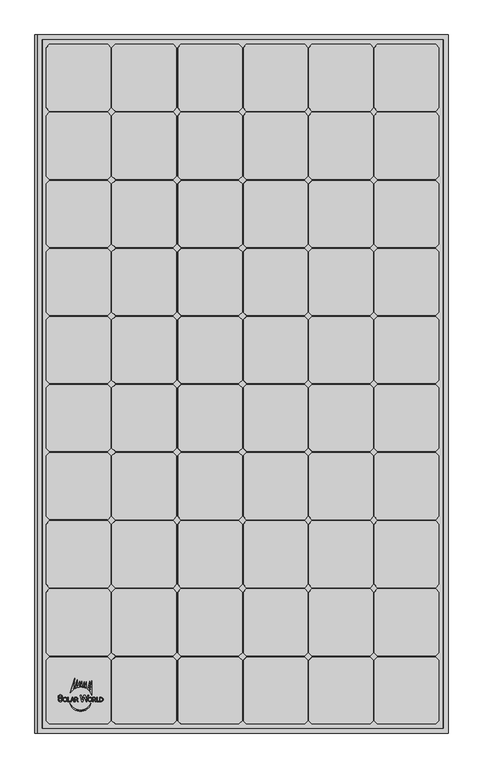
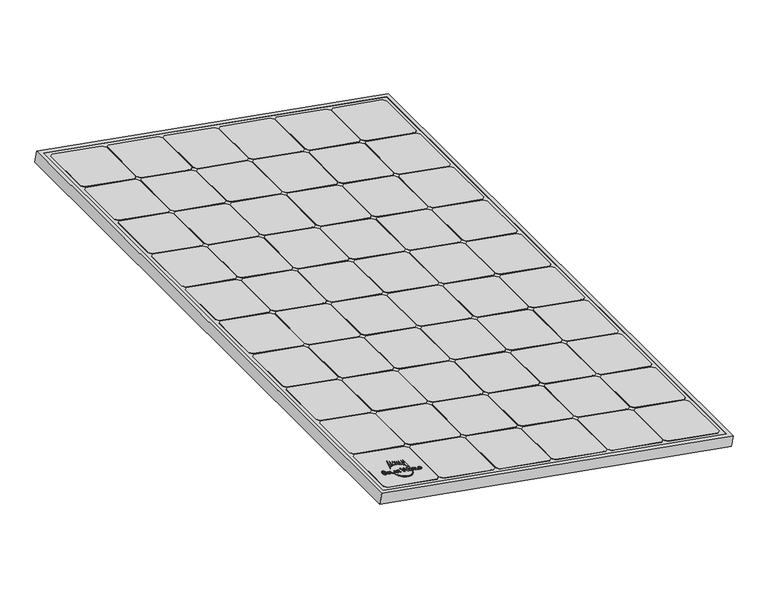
"""IFC4 building model written with IfcOpenShell, lengths in millimetres: proxy geometry, Kit Sunfix aero duo : Sunmodule Plus mono."""

from ifc_helpers import new_model, si_unit, point, frame, frame_2d, origin, place, context, project, spatial, polyline, circle_curve, trimmed, segment, composite_curve, outline, extrude, source, transform, mapped, element, save


def generic_models_4214bab4(model_context):
    return source(origin(), model_context, "Body", "SweptSolid", [
        extrude(outline(composite_curve([segment(trimmed(circle_curve(frame_2d((0.1998849, -3.2006257)), 5.0), [point((0.1998849, -8.2006257))], [point((0.1998849, 1.7993742))], False, "CARTESIAN"), True, "CONTINUOUS"), segment(trimmed(circle_curve(frame_2d((0.1998849, -3.2006257)), 5.0), [point((0.1998849, 1.7993742))], [point((0.1998849, -8.2006257))], False, "CARTESIAN"), True, "CONTINUOUS")], self_intersect=False), holes=[composite_curve([segment(trimmed(circle_curve(frame_2d((0.0, -3.4929825)), 3.4929825), [point((0.0, -6.9859651))], [point((0.0, 0.0))], True, "CARTESIAN"), True, "CONTINUOUS"), segment(trimmed(circle_curve(frame_2d((0.0, -3.4929825)), 3.4929825), [point((0.0, 0.0))], [point((0.0, -6.9859651))], True, "CARTESIAN"), True, "CONTINUOUS")], self_intersect=False)]), frame((95.8312008, -757.0649809, 285.0651223), z_axis=(0.17364817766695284, 0.0, 0.9848077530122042), x_axis=(0.0, 1.0, 0.0)), (0.0, 0.0, 1.0), 0.9849601),
        extrude(outline(polyline([(5.1998849, -9.0702125), (5.1998849, -10.4420414), (-3.5312002, -10.4420414), (-3.5312002, -15.8326664), (-4.8001151, -15.8326664), (-4.8001151, -9.0702125), (5.1998849, -9.0702125)])), frame((95.8312008, -757.0649809, 285.0651223), z_axis=(0.17364817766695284, 0.0, 0.9848077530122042), x_axis=(0.0, 1.0, 0.0)), (0.0, 0.0, 1.0), 0.9849601),
        extrude(outline(polyline([(-1.7085687, -18.902279), (-4.8001151, -17.7155455), (-4.8001151, -16.3665353), (5.1998849, -20.2051757), (5.1998849, -21.43828), (-4.8001151, -25.4785423), (-4.8001151, -23.9230031), (-1.7085687, -22.7977722), (-1.7085687, -18.902279)]), holes=[polyline([(-0.4734297, -22.3482184), (3.500464, -20.9018393), (-0.4734297, -19.3764044), (-0.4734297, -22.3482184)])]), frame((95.8312008, -757.0649809, 285.0651223), z_axis=(0.17364817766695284, 0.0, 0.9848077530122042), x_axis=(0.0, 1.0, 0.0)), (0.0, 0.0, 1.0), 0.9849601),
        extrude(outline(composite_curve([segment(polyline([(5.0411189, -26.5569741), (5.0411189, -30.7422059)]), True, "CONTINUOUS"), segment(trimmed(circle_curve(frame_2d((2.1117507, -30.7422059)), 2.9293683), [point((5.0411189, -30.7422059))], [point((-0.4734297, -32.1198999))], False, "CARTESIAN"), True, "CONTINUOUS"), segment(polyline([(-0.4734297, -32.1198999), (-4.8001151, -34.823513), (-4.8001151, -33.4458189), (-0.4734297, -30.7422059), (-0.4734297, -27.7362383), (-4.8001151, -27.7362383), (-4.8001151, -26.5569741), (5.0411189, -26.5569741)]), True, "CONTINUOUS")], self_intersect=False), holes=[composite_curve([segment(polyline([(3.7924862, -30.7915983), (3.7924862, -27.7362383), (0.6940273, -27.7362383), (0.6940273, -30.7915983)]), True, "CONTINUOUS"), segment(trimmed(circle_curve(frame_2d((2.2432568, -30.7915983)), 1.5492295), [point((0.6940273, -30.7915983))], [point((3.7924862, -30.7915983))], True, "CARTESIAN"), True, "CONTINUOUS")], self_intersect=False)]), frame((95.8312008, -757.0649809, 285.0651223), z_axis=(0.17364817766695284, 0.0, 0.9848077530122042), x_axis=(0.0, 1.0, 0.0)), (0.0, 0.0, 1.0), 0.9849601),
        extrude(outline(composite_curve([segment(trimmed(circle_curve(frame_2d((-1.9053474, -40.4638564)), 26.5), [point((-8.7208449, -66.0724291))], [point((-8.7208449, -14.8552837))], False, "CARTESIAN"), True, "CONTINUOUS"), segment(trimmed(circle_curve(frame_2d((2.6017434, -40.4638564)), 28.0), [point((-8.7208449, -14.8552837))], [point((-8.7208449, -66.0724291))], True, "CARTESIAN"), True, "CONTINUOUS")], self_intersect=False)), frame((95.8312008, -757.0649809, 285.0651223), z_axis=(0.17364817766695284, 0.0, 0.9848077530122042), x_axis=(0.0, 1.0, 0.0)), (0.0, 0.0, 1.0), 0.9849601),
        extrude(outline(polyline([(-4.8001151, -44.2256023), (9.9398205, -40.2760485), (9.9398205, -42.074514), (-2.5405515, -45.1862203), (9.9398205, -48.89666), (9.9398205, -51.6212433), (-2.7353917, -55.3507953), (9.9398205, -58.3691277), (9.9398205, -60.3004054), (-4.8001151, -56.3508517), (-4.8001151, -54.2558572), (8.1954331, -50.2827194), (-4.8001151, -46.4191167), (-4.8001151, -44.2256023)])), frame((95.8312008, -757.0649809, 285.0651223), z_axis=(0.17364817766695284, 0.0, 0.9848077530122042), x_axis=(0.0, 1.0, 0.0)), (0.0, 0.0, 1.0), 0.9849601),
        extrude(outline(composite_curve([segment(trimmed(circle_curve(frame_2d((0.1998849, -64.1588178)), 5.0), [point((0.1998849, -69.1588177))], [point((0.1998849, -59.1588178))], False, "CARTESIAN"), True, "CONTINUOUS"), segment(trimmed(circle_curve(frame_2d((0.1998849, -64.1588178)), 5.0), [point((0.1998849, -59.1588178))], [point((0.1998849, -69.1588177))], False, "CARTESIAN"), True, "CONTINUOUS")], self_intersect=False), holes=[composite_curve([segment(trimmed(circle_curve(frame_2d((0.1998849, -64.1588178)), 3.4929825), [point((0.1998849, -67.6518003))], [point((0.1998849, -60.6658352))], True, "CARTESIAN"), True, "CONTINUOUS"), segment(trimmed(circle_curve(frame_2d((0.1998849, -64.1588178)), 3.4929825), [point((0.1998849, -60.6658352))], [point((0.1998849, -67.6518003))], True, "CARTESIAN"), True, "CONTINUOUS")], self_intersect=False)]), frame((95.8312008, -757.0649809, 285.0651223), z_axis=(0.17364817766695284, 0.0, 0.9848077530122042), x_axis=(0.0, 1.0, 0.0)), (0.0, 0.0, 1.0), 0.9849601),
        extrude(outline(composite_curve([segment(polyline([(5.0411189, -69.9653713), (5.0411189, -74.1506031)]), True, "CONTINUOUS"), segment(trimmed(circle_curve(frame_2d((2.1117507, -74.1506031)), 2.9293683), [point((5.0411189, -74.1506031))], [point((-0.4734297, -75.528297))], False, "CARTESIAN"), True, "CONTINUOUS"), segment(polyline([(-0.4734297, -75.528297), (-4.8001151, -78.2319102), (-4.8001151, -76.8542161), (-0.4734297, -74.1506031), (-0.4734297, -71.1446355), (-4.8001151, -71.1446355), (-4.8001151, -69.9653713), (5.0411189, -69.9653713)]), True, "CONTINUOUS")], self_intersect=False), holes=[composite_curve([segment(polyline([(3.7924862, -74.1999955), (3.7924862, -71.1446355), (0.6940273, -71.1446355), (0.6940273, -74.1999955)]), True, "CONTINUOUS"), segment(trimmed(circle_curve(frame_2d((2.2432568, -74.1999955)), 1.5492295), [point((0.6940273, -74.1999955))], [point((3.7924862, -74.1999955))], True, "CARTESIAN"), True, "CONTINUOUS")], self_intersect=False)]), frame((95.8312008, -757.0649809, 285.0651223), z_axis=(0.17364817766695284, 0.0, 0.9848077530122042), x_axis=(0.0, 1.0, 0.0)), (0.0, 0.0, 1.0), 0.9849601),
        extrude(outline(polyline([(-4.8001151, -79.9265661), (5.1998849, -79.9265661), (5.1998849, -81.1546296), (-3.5152088, -81.1546296), (-3.5152088, -86.1546295), (-4.8001151, -86.1546295), (-4.8001151, -79.9265661)])), frame((95.8312008, -757.0649809, 285.0651223), z_axis=(0.17364817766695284, 0.0, 0.9848077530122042), x_axis=(0.0, 1.0, 0.0)), (0.0, 0.0, 1.0), 0.9849601),
        extrude(outline(composite_curve([segment(polyline([(-4.8001151, -87.4892145), (5.1998849, -87.4892145), (5.1998849, -91.6547375)]), True, "CONTINUOUS"), segment(trimmed(circle_curve(frame_2d((0.1998849, -90.5586457)), 5.118732), [point((5.1998849, -91.6547375))], [point((-4.8001151, -91.6547375))], False, "CARTESIAN"), True, "CONTINUOUS"), segment(polyline([(-4.8001151, -91.6547375), (-4.8001151, -87.4892145)]), True, "CONTINUOUS")], self_intersect=False), holes=[composite_curve([segment(polyline([(3.6386387, -89.0149737), (-3.3613613, -89.0149737), (-3.3613613, -90.7441157)]), True, "CONTINUOUS"), segment(trimmed(circle_curve(frame_2d((0.1386387, -90.7441157)), 3.5), [point((-3.3613613, -90.7441157))], [point((3.6386387, -90.7441157))], True, "CARTESIAN"), True, "CONTINUOUS"), segment(polyline([(3.6386387, -90.7441157), (3.6386387, -89.0149737)]), True, "CONTINUOUS")], self_intersect=False)]), frame((95.8312008, -757.0649809, 285.0651223), z_axis=(0.17364817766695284, 0.0, 0.9848077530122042), x_axis=(0.0, 1.0, 0.0)), (0.0, 0.0, 1.0), 0.9849601),
        extrude(outline(composite_curve([segment(trimmed(circle_curve(frame_2d((5.8567778, 8.5215552)), 5.3511248), [point((2.5428431, 12.723028))], [point((5.8567778, 3.1704305))], False, "CARTESIAN"), True, "CONTINUOUS"), segment(polyline([(5.8567778, 3.1704305), (5.8567778, 4.9541387)]), True, "CONTINUOUS"), segment(trimmed(circle_curve(frame_2d((5.8567778, 8.4292944)), 3.4751557), [point((5.8567778, 4.9541387))], [point((4.0740931, 11.4123706))], True, "CARTESIAN"), True, "CONTINUOUS"), segment(polyline([(4.0740931, 11.4123706), (4.0740931, 4.6349933)]), True, "CONTINUOUS"), segment(trimmed(circle_curve(frame_2d((0.1981171, 8.4406898)), 5.4319901), [point((4.0740931, 4.6349933))], [point((0.1981171, 13.87268))], False, "CARTESIAN"), True, "CONTINUOUS"), segment(polyline([(0.1981171, 13.87268), (0.1981171, 11.9609933)]), True, "CONTINUOUS"), segment(trimmed(circle_curve(frame_2d((0.1981171, 8.5473447)), 3.4136486), [point((0.1981171, 11.9609933))], [point((2.5428431, 6.0663658))], True, "CARTESIAN"), True, "CONTINUOUS"), segment(polyline([(2.5428431, 6.0663658), (2.5428431, 12.723028)]), True, "CONTINUOUS")], self_intersect=False)), frame((95.8312008, -757.0649809, 285.0651223), z_axis=(0.17364817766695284, 0.0, 0.9848077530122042), x_axis=(0.0, 1.0, 0.0)), (0.0, 0.0, 1.0), 0.9849601),
        extrude(outline(composite_curve([segment(trimmed(circle_curve(frame_2d((1.0440339, -40.9467485)), 29.2067961), [point((23.9790883, -22.8630483))], [point((15.9921531, -15.8551031))], True, "CARTESIAN"), True, "CONTINUOUS"), segment(polyline([(15.9921531, -15.8551031), (50.5289432, -26.1229606), (23.9790883, -22.8630483)]), True, "CONTINUOUS")], self_intersect=False)), frame((95.8312008, -757.0649809, 285.0651223), z_axis=(0.17364817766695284, 0.0, 0.9848077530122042), x_axis=(0.0, 1.0, 0.0)), (0.0, 0.0, 1.0), 0.9849601),
        extrude(outline(composite_curve([segment(polyline([(45.6184953, -68.4638003), (10.8342738, -68.4638003)]), True, "CONTINUOUS"), segment(trimmed(circle_curve(frame_2d((1.0440339, -40.9467485)), 29.2067961), [point((10.8342738, -68.4638003))], [point((20.1505739, -63.0369514))], True, "CARTESIAN"), True, "CONTINUOUS"), segment(polyline([(20.1505739, -63.0369514), (45.6184953, -68.4638003)]), True, "CONTINUOUS")], self_intersect=False)), frame((95.8312008, -757.0649809, 285.0651223), z_axis=(0.17364817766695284, 0.0, 0.9848077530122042), x_axis=(0.0, 1.0, 0.0)), (0.0, 0.0, 1.0), 0.9849601),
        extrude(outline(composite_curve([segment(polyline([(44.1747175, -63.1268574), (21.4882128, -61.8051398)]), True, "CONTINUOUS"), segment(trimmed(circle_curve(frame_2d((1.0440339, -40.9467485)), 29.2067961), [point((21.4882128, -61.8051398))], [point((24.7730634, -57.9752567))], True, "CARTESIAN"), True, "CONTINUOUS"), segment(polyline([(24.7730634, -57.9752567), (44.1747175, -63.1268574)]), True, "CONTINUOUS")], self_intersect=False)), frame((95.8312008, -757.0649809, 285.0651223), z_axis=(0.17364817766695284, 0.0, 0.9848077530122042), x_axis=(0.0, 1.0, 0.0)), (0.0, 0.0, 1.0), 0.9849601),
        extrude(outline(composite_curve([segment(trimmed(circle_curve(frame_2d((1.0440339, -40.9467485)), 29.2067961), [point((30.016107, -44.6421396))], [point((30.2372718, -40.0569206))], True, "CARTESIAN"), True, "CONTINUOUS"), segment(polyline([(30.2372718, -40.0569206), (43.7376583, -43.2717506), (30.016107, -44.6421396)]), True, "CONTINUOUS")], self_intersect=False)), frame((95.8312008, -757.0649809, 285.0651223), z_axis=(0.17364817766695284, 0.0, 0.9848077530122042), x_axis=(0.0, 1.0, 0.0)), (0.0, 0.0, 1.0), 0.9849601),
        extrude(outline(composite_curve([segment(polyline([(43.0867937, -49.2829526), (28.940714, -49.5961517)]), True, "CONTINUOUS"), segment(trimmed(circle_curve(frame_2d((1.0440339, -40.9467485)), 29.2067961), [point((28.940714, -49.5961517))], [point((29.7301925, -46.4368523))], True, "CARTESIAN"), True, "CONTINUOUS"), segment(polyline([(29.7301925, -46.4368523), (43.0867937, -49.2829526)]), True, "CONTINUOUS")], self_intersect=False)), frame((95.8312008, -757.0649809, 285.0651223), z_axis=(0.17364817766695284, 0.0, 0.9848077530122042), x_axis=(0.0, 1.0, 0.0)), (0.0, 0.0, 1.0), 0.9849601),
        extrude(outline(composite_curve([segment(polyline([(43.0770314, -54.8085395), (26.7517698, -54.8085395)]), True, "CONTINUOUS"), segment(trimmed(circle_curve(frame_2d((1.0440339, -40.9467485)), 29.2067961), [point((26.7517698, -54.8085395))], [point((28.353325, -51.3024019))], True, "CARTESIAN"), True, "CONTINUOUS"), segment(polyline([(28.353325, -51.3024019), (43.0770314, -54.8085395)]), True, "CONTINUOUS")], self_intersect=False)), frame((95.8312008, -757.0649809, 285.0651223), z_axis=(0.17364817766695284, 0.0, 0.9848077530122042), x_axis=(0.0, 1.0, 0.0)), (0.0, 0.0, 1.0), 0.9849601),
        extrude(outline(composite_curve([segment(trimmed(circle_curve(frame_2d((1.0440339, -40.9467485)), 29.2067961), [point((28.5480992, -31.1200845))], [point((26.1399185, -26.0057476))], True, "CARTESIAN"), True, "CONTINUOUS"), segment(polyline([(26.1399185, -26.0057476), (47.3787629, -32.2171607), (28.5480992, -31.1200845)]), True, "CONTINUOUS")], self_intersect=False)), frame((95.8312008, -757.0649809, 285.0651223), z_axis=(0.17364817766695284, 0.0, 0.9848077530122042), x_axis=(0.0, 1.0, 0.0)), (0.0, 0.0, 1.0), 0.9849601),
        extrude(outline(composite_curve([segment(trimmed(circle_curve(frame_2d((1.0440339, -40.9467485)), 29.2067961), [point((30.1062523, -38.0442674))], [point((29.165809, -33.0598796))], True, "CARTESIAN"), True, "CONTINUOUS"), segment(polyline([(29.165809, -33.0598796), (44.3056664, -38.8715264), (30.1062523, -38.0442674)]), True, "CONTINUOUS")], self_intersect=False)), frame((95.8312008, -757.0649809, 285.0651223), z_axis=(0.17364817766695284, 0.0, 0.9848077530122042), x_axis=(0.0, 1.0, 0.0)), (0.0, 0.0, 1.0), 0.9849601),
        extrude(outline(polyline([(-1477.2, -172.0), (-1477.2, -30.0), (-1469.7, -22.5), (-1324.7, -22.5), (-1317.2, -30.0), (-1317.2, -172.0), (-1324.7, -179.5), (-1469.7, -179.5), (-1477.2, -172.0)])), frame((1017.6207833, -662.5, 121.5133218), z_axis=(0.17364817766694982, 0.0, 0.9848077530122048), x_axis=(0.0, -1.0, 0.0)), (0.0, 0.0, 1.0), 1.0),
        extrude(outline(polyline([(-1477.2, -331.8), (-1477.2, -189.8), (-1469.7, -182.3), (-1324.7, -182.3), (-1317.2, -189.8), (-1317.2, -331.8), (-1324.7, -339.3), (-1469.7, -339.3), (-1477.2, -331.8)])), frame((1017.6207833, -662.5, 121.5133218), z_axis=(0.17364817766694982, 0.0, 0.9848077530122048), x_axis=(0.0, -1.0, 0.0)), (0.0, 0.0, 1.0), 1.0),
        extrude(outline(polyline([(-1477.2, -491.6), (-1477.2, -349.6), (-1469.7, -342.1), (-1324.7, -342.1), (-1317.2, -349.6), (-1317.2, -491.6), (-1324.7, -499.1), (-1469.7, -499.1), (-1477.2, -491.6)])), frame((1017.6207833, -662.5, 121.5133218), z_axis=(0.17364817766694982, 0.0, 0.9848077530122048), x_axis=(0.0, -1.0, 0.0)), (0.0, 0.0, 1.0), 1.0),
        extrude(outline(polyline([(-1477.2, -651.4), (-1477.2, -509.4), (-1469.7, -501.9), (-1324.7, -501.9), (-1317.2, -509.4), (-1317.2, -651.4), (-1324.7, -658.9), (-1469.7, -658.9), (-1477.2, -651.4)])), frame((1017.6207833, -662.5, 121.5133218), z_axis=(0.17364817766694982, 0.0, 0.9848077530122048), x_axis=(0.0, -1.0, 0.0)), (0.0, 0.0, 1.0), 1.0),
        extrude(outline(polyline([(-1477.2, -811.2), (-1477.2, -669.2), (-1469.7, -661.7), (-1324.7, -661.7), (-1317.2, -669.2), (-1317.2, -811.2), (-1324.7, -818.7), (-1469.7, -818.7), (-1477.2, -811.2)])), frame((1017.6207833, -662.5, 121.5133218), z_axis=(0.17364817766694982, 0.0, 0.9848077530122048), x_axis=(0.0, -1.0, 0.0)), (0.0, 0.0, 1.0), 1.0),
        extrude(outline(polyline([(-1477.2, -971.0), (-1477.2, -829.0), (-1469.7, -821.5), (-1324.7, -821.5), (-1317.2, -829.0), (-1317.2, -971.0), (-1324.7, -978.5), (-1469.7, -978.5), (-1477.2, -971.0)])), frame((1017.6207833, -662.5, 121.5133218), z_axis=(0.17364817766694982, 0.0, 0.9848077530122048), x_axis=(0.0, -1.0, 0.0)), (0.0, 0.0, 1.0), 1.0),
        extrude(outline(polyline([(-1313.9, -172.0), (-1313.9, -30.0), (-1306.4, -22.5), (-1161.4, -22.5), (-1153.9, -30.0), (-1153.9, -172.0), (-1161.4, -179.5), (-1306.4, -179.5), (-1313.9, -172.0)])), frame((1017.6207833, -662.5, 121.5133218), z_axis=(0.17364817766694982, 0.0, 0.9848077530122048), x_axis=(0.0, -1.0, 0.0)), (0.0, 0.0, 1.0), 1.0),
        extrude(outline(polyline([(-1313.9, -331.8), (-1313.9, -189.8), (-1306.4, -182.3), (-1161.4, -182.3), (-1153.9, -189.8), (-1153.9, -331.8), (-1161.4, -339.3), (-1306.4, -339.3), (-1313.9, -331.8)])), frame((1017.6207833, -662.5, 121.5133218), z_axis=(0.17364817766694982, 0.0, 0.9848077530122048), x_axis=(0.0, -1.0, 0.0)), (0.0, 0.0, 1.0), 1.0),
        extrude(outline(polyline([(-1313.9, -491.6), (-1313.9, -349.6), (-1306.4, -342.1), (-1161.4, -342.1), (-1153.9, -349.6), (-1153.9, -491.6), (-1161.4, -499.1), (-1306.4, -499.1), (-1313.9, -491.6)])), frame((1017.6207833, -662.5, 121.5133218), z_axis=(0.17364817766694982, 0.0, 0.9848077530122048), x_axis=(0.0, -1.0, 0.0)), (0.0, 0.0, 1.0), 1.0),
        extrude(outline(polyline([(-1313.9, -651.4), (-1313.9, -509.4), (-1306.4, -501.9), (-1161.4, -501.9), (-1153.9, -509.4), (-1153.9, -651.4), (-1161.4, -658.9), (-1306.4, -658.9), (-1313.9, -651.4)])), frame((1017.6207833, -662.5, 121.5133218), z_axis=(0.17364817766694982, 0.0, 0.9848077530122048), x_axis=(0.0, -1.0, 0.0)), (0.0, 0.0, 1.0), 1.0),
        extrude(outline(polyline([(-1313.9, -811.2), (-1313.9, -669.2), (-1306.4, -661.7), (-1161.4, -661.7), (-1153.9, -669.2), (-1153.9, -811.2), (-1161.4, -818.7), (-1306.4, -818.7), (-1313.9, -811.2)])), frame((1017.6207833, -662.5, 121.5133218), z_axis=(0.17364817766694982, 0.0, 0.9848077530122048), x_axis=(0.0, -1.0, 0.0)), (0.0, 0.0, 1.0), 1.0),
        extrude(outline(polyline([(-1313.9, -971.0), (-1313.9, -829.0), (-1306.4, -821.5), (-1161.4, -821.5), (-1153.9, -829.0), (-1153.9, -971.0), (-1161.4, -978.5), (-1306.4, -978.5), (-1313.9, -971.0)])), frame((1017.6207833, -662.5, 121.5133218), z_axis=(0.17364817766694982, 0.0, 0.9848077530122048), x_axis=(0.0, -1.0, 0.0)), (0.0, 0.0, 1.0), 1.0),
        extrude(outline(polyline([(-1150.6, -172.0), (-1150.6, -30.0), (-1143.1, -22.5), (-998.1, -22.5), (-990.6, -30.0), (-990.6, -172.0), (-998.1, -179.5), (-1143.1, -179.5), (-1150.6, -172.0)])), frame((1017.6207833, -662.5, 121.5133218), z_axis=(0.17364817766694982, 0.0, 0.9848077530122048), x_axis=(0.0, -1.0, 0.0)), (0.0, 0.0, 1.0), 1.0),
        extrude(outline(polyline([(-1150.6, -331.8), (-1150.6, -189.8), (-1143.1, -182.3), (-998.1, -182.3), (-990.6, -189.8), (-990.6, -331.8), (-998.1, -339.3), (-1143.1, -339.3), (-1150.6, -331.8)])), frame((1017.6207833, -662.5, 121.5133218), z_axis=(0.17364817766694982, 0.0, 0.9848077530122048), x_axis=(0.0, -1.0, 0.0)), (0.0, 0.0, 1.0), 1.0),
        extrude(outline(polyline([(-1150.6, -491.6), (-1150.6, -349.6), (-1143.1, -342.1), (-998.1, -342.1), (-990.6, -349.6), (-990.6, -491.6), (-998.1, -499.1), (-1143.1, -499.1), (-1150.6, -491.6)])), frame((1017.6207833, -662.5, 121.5133218), z_axis=(0.17364817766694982, 0.0, 0.9848077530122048), x_axis=(0.0, -1.0, 0.0)), (0.0, 0.0, 1.0), 1.0),
        extrude(outline(polyline([(-1150.6, -651.4), (-1150.6, -509.4), (-1143.1, -501.9), (-998.1, -501.9), (-990.6, -509.4), (-990.6, -651.4), (-998.1, -658.9), (-1143.1, -658.9), (-1150.6, -651.4)])), frame((1017.6207833, -662.5, 121.5133218), z_axis=(0.17364817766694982, 0.0, 0.9848077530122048), x_axis=(0.0, -1.0, 0.0)), (0.0, 0.0, 1.0), 1.0),
        extrude(outline(polyline([(-1150.6, -811.2), (-1150.6, -669.2), (-1143.1, -661.7), (-998.1, -661.7), (-990.6, -669.2), (-990.6, -811.2), (-998.1, -818.7), (-1143.1, -818.7), (-1150.6, -811.2)])), frame((1017.6207833, -662.5, 121.5133218), z_axis=(0.17364817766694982, 0.0, 0.9848077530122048), x_axis=(0.0, -1.0, 0.0)), (0.0, 0.0, 1.0), 1.0),
        extrude(outline(polyline([(-1150.6, -971.0), (-1150.6, -829.0), (-1143.1, -821.5), (-998.1, -821.5), (-990.6, -829.0), (-990.6, -971.0), (-998.1, -978.5), (-1143.1, -978.5), (-1150.6, -971.0)])), frame((1017.6207833, -662.5, 121.5133218), z_axis=(0.17364817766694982, 0.0, 0.9848077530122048), x_axis=(0.0, -1.0, 0.0)), (0.0, 0.0, 1.0), 1.0),
        extrude(outline(polyline([(-987.3, -172.0), (-987.3, -30.0), (-979.8, -22.5), (-834.8, -22.5), (-827.3, -30.0), (-827.3, -172.0), (-834.8, -179.5), (-979.8, -179.5), (-987.3, -172.0)])), frame((1017.6207833, -662.5, 121.5133218), z_axis=(0.17364817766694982, 0.0, 0.9848077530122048), x_axis=(0.0, -1.0, 0.0)), (0.0, 0.0, 1.0), 1.0),
        extrude(outline(polyline([(-987.3, -331.8), (-987.3, -189.8), (-979.8, -182.3), (-834.8, -182.3), (-827.3, -189.8), (-827.3, -331.8), (-834.8, -339.3), (-979.8, -339.3), (-987.3, -331.8)])), frame((1017.6207833, -662.5, 121.5133218), z_axis=(0.17364817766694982, 0.0, 0.9848077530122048), x_axis=(0.0, -1.0, 0.0)), (0.0, 0.0, 1.0), 1.0),
        extrude(outline(polyline([(-987.3, -491.6), (-987.3, -349.6), (-979.8, -342.1), (-834.8, -342.1), (-827.3, -349.6), (-827.3, -491.6), (-834.8, -499.1), (-979.8, -499.1), (-987.3, -491.6)])), frame((1017.6207833, -662.5, 121.5133218), z_axis=(0.17364817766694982, 0.0, 0.9848077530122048), x_axis=(0.0, -1.0, 0.0)), (0.0, 0.0, 1.0), 1.0),
        extrude(outline(polyline([(-987.3, -651.4), (-987.3, -509.4), (-979.8, -501.9), (-834.8, -501.9), (-827.3, -509.4), (-827.3, -651.4), (-834.8, -658.9), (-979.8, -658.9), (-987.3, -651.4)])), frame((1017.6207833, -662.5, 121.5133218), z_axis=(0.17364817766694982, 0.0, 0.9848077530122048), x_axis=(0.0, -1.0, 0.0)), (0.0, 0.0, 1.0), 1.0),
        extrude(outline(polyline([(-987.3, -811.2), (-987.3, -669.2), (-979.8, -661.7), (-834.8, -661.7), (-827.3, -669.2), (-827.3, -811.2), (-834.8, -818.7), (-979.8, -818.7), (-987.3, -811.2)])), frame((1017.6207833, -662.5, 121.5133218), z_axis=(0.17364817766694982, 0.0, 0.9848077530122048), x_axis=(0.0, -1.0, 0.0)), (0.0, 0.0, 1.0), 1.0),
        extrude(outline(polyline([(-987.3, -971.0), (-987.3, -829.0), (-979.8, -821.5), (-834.8, -821.5), (-827.3, -829.0), (-827.3, -971.0), (-834.8, -978.5), (-979.8, -978.5), (-987.3, -971.0)])), frame((1017.6207833, -662.5, 121.5133218), z_axis=(0.17364817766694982, 0.0, 0.9848077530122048), x_axis=(0.0, -1.0, 0.0)), (0.0, 0.0, 1.0), 1.0),
        extrude(outline(polyline([(-824.0, -172.0), (-824.0, -30.0), (-816.5, -22.5), (-671.5, -22.5), (-664.0, -30.0), (-664.0, -172.0), (-671.5, -179.5), (-816.5, -179.5), (-824.0, -172.0)])), frame((1017.6207833, -662.5, 121.5133218), z_axis=(0.17364817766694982, 0.0, 0.9848077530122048), x_axis=(0.0, -1.0, 0.0)), (0.0, 0.0, 1.0), 1.0),
        extrude(outline(polyline([(-824.0, -331.8), (-824.0, -189.8), (-816.5, -182.3), (-671.5, -182.3), (-664.0, -189.8), (-664.0, -331.8), (-671.5, -339.3), (-816.5, -339.3), (-824.0, -331.8)])), frame((1017.6207833, -662.5, 121.5133218), z_axis=(0.17364817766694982, 0.0, 0.9848077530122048), x_axis=(0.0, -1.0, 0.0)), (0.0, 0.0, 1.0), 1.0),
        extrude(outline(polyline([(-824.0, -491.6), (-824.0, -349.6), (-816.5, -342.1), (-671.5, -342.1), (-664.0, -349.6), (-664.0, -491.6), (-671.5, -499.1), (-816.5, -499.1), (-824.0, -491.6)])), frame((1017.6207833, -662.5, 121.5133218), z_axis=(0.17364817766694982, 0.0, 0.9848077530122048), x_axis=(0.0, -1.0, 0.0)), (0.0, 0.0, 1.0), 1.0),
        extrude(outline(polyline([(-824.0, -651.4), (-824.0, -509.4), (-816.5, -501.9), (-671.5, -501.9), (-664.0, -509.4), (-664.0, -651.4), (-671.5, -658.9), (-816.5, -658.9), (-824.0, -651.4)])), frame((1017.6207833, -662.5, 121.5133218), z_axis=(0.17364817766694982, 0.0, 0.9848077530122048), x_axis=(0.0, -1.0, 0.0)), (0.0, 0.0, 1.0), 1.0),
        extrude(outline(polyline([(-824.0, -811.2), (-824.0, -669.2), (-816.5, -661.7), (-671.5, -661.7), (-664.0, -669.2), (-664.0, -811.2), (-671.5, -818.7), (-816.5, -818.7), (-824.0, -811.2)])), frame((1017.6207833, -662.5, 121.5133218), z_axis=(0.17364817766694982, 0.0, 0.9848077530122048), x_axis=(0.0, -1.0, 0.0)), (0.0, 0.0, 1.0), 1.0),
        extrude(outline(polyline([(-824.0, -971.0), (-824.0, -829.0), (-816.5, -821.5), (-671.5, -821.5), (-664.0, -829.0), (-664.0, -971.0), (-671.5, -978.5), (-816.5, -978.5), (-824.0, -971.0)])), frame((1017.6207833, -662.5, 121.5133218), z_axis=(0.17364817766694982, 0.0, 0.9848077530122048), x_axis=(0.0, -1.0, 0.0)), (0.0, 0.0, 1.0), 1.0),
        extrude(outline(polyline([(-660.7, -172.0), (-660.7, -30.0), (-653.2, -22.5), (-508.2, -22.5), (-500.7, -30.0), (-500.7, -172.0), (-508.2, -179.5), (-653.2, -179.5), (-660.7, -172.0)])), frame((1017.6207833, -662.5, 121.5133218), z_axis=(0.17364817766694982, 0.0, 0.9848077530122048), x_axis=(0.0, -1.0, 0.0)), (0.0, 0.0, 1.0), 1.0),
        extrude(outline(polyline([(-660.7, -331.8), (-660.7, -189.8), (-653.2, -182.3), (-508.2, -182.3), (-500.7, -189.8), (-500.7, -331.8), (-508.2, -339.3), (-653.2, -339.3), (-660.7, -331.8)])), frame((1017.6207833, -662.5, 121.5133218), z_axis=(0.17364817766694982, 0.0, 0.9848077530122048), x_axis=(0.0, -1.0, 0.0)), (0.0, 0.0, 1.0), 1.0),
        extrude(outline(polyline([(-660.7, -491.6), (-660.7, -349.6), (-653.2, -342.1), (-508.2, -342.1), (-500.7, -349.6), (-500.7, -491.6), (-508.2, -499.1), (-653.2, -499.1), (-660.7, -491.6)])), frame((1017.6207833, -662.5, 121.5133218), z_axis=(0.17364817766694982, 0.0, 0.9848077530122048), x_axis=(0.0, -1.0, 0.0)), (0.0, 0.0, 1.0), 1.0),
        extrude(outline(polyline([(-660.7, -651.4), (-660.7, -509.4), (-653.2, -501.9), (-508.2, -501.9), (-500.7, -509.4), (-500.7, -651.4), (-508.2, -658.9), (-653.2, -658.9), (-660.7, -651.4)])), frame((1017.6207833, -662.5, 121.5133218), z_axis=(0.17364817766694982, 0.0, 0.9848077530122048), x_axis=(0.0, -1.0, 0.0)), (0.0, 0.0, 1.0), 1.0),
        extrude(outline(polyline([(-660.7, -811.2), (-660.7, -669.2), (-653.2, -661.7), (-508.2, -661.7), (-500.7, -669.2), (-500.7, -811.2), (-508.2, -818.7), (-653.2, -818.7), (-660.7, -811.2)])), frame((1017.6207833, -662.5, 121.5133218), z_axis=(0.17364817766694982, 0.0, 0.9848077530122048), x_axis=(0.0, -1.0, 0.0)), (0.0, 0.0, 1.0), 1.0),
        extrude(outline(polyline([(-660.7, -971.0), (-660.7, -829.0), (-653.2, -821.5), (-508.2, -821.5), (-500.7, -829.0), (-500.7, -971.0), (-508.2, -978.5), (-653.2, -978.5), (-660.7, -971.0)])), frame((1017.6207833, -662.5, 121.5133218), z_axis=(0.17364817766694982, 0.0, 0.9848077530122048), x_axis=(0.0, -1.0, 0.0)), (0.0, 0.0, 1.0), 1.0),
        extrude(outline(polyline([(-497.4, -172.0), (-497.4, -30.0), (-489.9, -22.5), (-344.9, -22.5), (-337.4, -30.0), (-337.4, -172.0), (-344.9, -179.5), (-489.9, -179.5), (-497.4, -172.0)])), frame((1017.6207833, -662.5, 121.5133218), z_axis=(0.17364817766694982, 0.0, 0.9848077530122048), x_axis=(0.0, -1.0, 0.0)), (0.0, 0.0, 1.0), 1.0),
        extrude(outline(polyline([(-497.4, -331.8), (-497.4, -189.8), (-489.9, -182.3), (-344.9, -182.3), (-337.4, -189.8), (-337.4, -331.8), (-344.9, -339.3), (-489.9, -339.3), (-497.4, -331.8)])), frame((1017.6207833, -662.5, 121.5133218), z_axis=(0.17364817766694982, 0.0, 0.9848077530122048), x_axis=(0.0, -1.0, 0.0)), (0.0, 0.0, 1.0), 1.0),
        extrude(outline(polyline([(-497.4, -491.6), (-497.4, -349.6), (-489.9, -342.1), (-344.9, -342.1), (-337.4, -349.6), (-337.4, -491.6), (-344.9, -499.1), (-489.9, -499.1), (-497.4, -491.6)])), frame((1017.6207833, -662.5, 121.5133218), z_axis=(0.17364817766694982, 0.0, 0.9848077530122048), x_axis=(0.0, -1.0, 0.0)), (0.0, 0.0, 1.0), 1.0),
        extrude(outline(polyline([(-497.4, -651.4), (-497.4, -509.4), (-489.9, -501.9), (-344.9, -501.9), (-337.4, -509.4), (-337.4, -651.4), (-344.9, -658.9), (-489.9, -658.9), (-497.4, -651.4)])), frame((1017.6207833, -662.5, 121.5133218), z_axis=(0.17364817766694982, 0.0, 0.9848077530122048), x_axis=(0.0, -1.0, 0.0)), (0.0, 0.0, 1.0), 1.0),
        extrude(outline(polyline([(-497.4, -811.2), (-497.4, -669.2), (-489.9, -661.7), (-344.9, -661.7), (-337.4, -669.2), (-337.4, -811.2), (-344.9, -818.7), (-489.9, -818.7), (-497.4, -811.2)])), frame((1017.6207833, -662.5, 121.5133218), z_axis=(0.17364817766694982, 0.0, 0.9848077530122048), x_axis=(0.0, -1.0, 0.0)), (0.0, 0.0, 1.0), 1.0),
        extrude(outline(polyline([(-497.4, -971.0), (-497.4, -829.0), (-489.9, -821.5), (-344.9, -821.5), (-337.4, -829.0), (-337.4, -971.0), (-344.9, -978.5), (-489.9, -978.5), (-497.4, -971.0)])), frame((1017.6207833, -662.5, 121.5133218), z_axis=(0.17364817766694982, 0.0, 0.9848077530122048), x_axis=(0.0, -1.0, 0.0)), (0.0, 0.0, 1.0), 1.0),
        extrude(outline(polyline([(-334.1, -172.0), (-334.1, -30.0), (-326.6, -22.5), (-181.6, -22.5), (-174.1, -30.0), (-174.1, -172.0), (-181.6, -179.5), (-326.6, -179.5), (-334.1, -172.0)])), frame((1017.6207833, -662.5, 121.5133218), z_axis=(0.17364817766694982, 0.0, 0.9848077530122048), x_axis=(0.0, -1.0, 0.0)), (0.0, 0.0, 1.0), 1.0),
        extrude(outline(polyline([(-334.1, -331.8), (-334.1, -189.8), (-326.6, -182.3), (-181.6, -182.3), (-174.1, -189.8), (-174.1, -331.8), (-181.6, -339.3), (-326.6, -339.3), (-334.1, -331.8)])), frame((1017.6207833, -662.5, 121.5133218), z_axis=(0.17364817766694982, 0.0, 0.9848077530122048), x_axis=(0.0, -1.0, 0.0)), (0.0, 0.0, 1.0), 1.0),
        extrude(outline(polyline([(-334.1, -491.6), (-334.1, -349.6), (-326.6, -342.1), (-181.6, -342.1), (-174.1, -349.6), (-174.1, -491.6), (-181.6, -499.1), (-326.6, -499.1), (-334.1, -491.6)])), frame((1017.6207833, -662.5, 121.5133218), z_axis=(0.17364817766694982, 0.0, 0.9848077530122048), x_axis=(0.0, -1.0, 0.0)), (0.0, 0.0, 1.0), 1.0),
        extrude(outline(polyline([(-334.1, -651.4), (-334.1, -509.4), (-326.6, -501.9), (-181.6, -501.9), (-174.1, -509.4), (-174.1, -651.4), (-181.6, -658.9), (-326.6, -658.9), (-334.1, -651.4)])), frame((1017.6207833, -662.5, 121.5133218), z_axis=(0.17364817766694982, 0.0, 0.9848077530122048), x_axis=(0.0, -1.0, 0.0)), (0.0, 0.0, 1.0), 1.0),
        extrude(outline(polyline([(-334.1, -811.2), (-334.1, -669.2), (-326.6, -661.7), (-181.6, -661.7), (-174.1, -669.2), (-174.1, -811.2), (-181.6, -818.7), (-326.6, -818.7), (-334.1, -811.2)])), frame((1017.6207833, -662.5, 121.5133218), z_axis=(0.17364817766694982, 0.0, 0.9848077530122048), x_axis=(0.0, -1.0, 0.0)), (0.0, 0.0, 1.0), 1.0),
        extrude(outline(polyline([(-334.1, -971.0), (-334.1, -829.0), (-326.6, -821.5), (-181.6, -821.5), (-174.1, -829.0), (-174.1, -971.0), (-181.6, -978.5), (-326.6, -978.5), (-334.1, -971.0)])), frame((1017.6207833, -662.5, 121.5133218), z_axis=(0.17364817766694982, 0.0, 0.9848077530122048), x_axis=(0.0, -1.0, 0.0)), (0.0, 0.0, 1.0), 1.0),
        extrude(outline(polyline([(-170.8, -172.0), (-170.8, -30.0), (-163.3, -22.5), (-18.3, -22.5), (-10.8, -30.0), (-10.8, -172.0), (-18.3, -179.5), (-163.3, -179.5), (-170.8, -172.0)])), frame((1017.6207833, -662.5, 121.5133218), z_axis=(0.17364817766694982, 0.0, 0.9848077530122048), x_axis=(0.0, -1.0, 0.0)), (0.0, 0.0, 1.0), 1.0),
        extrude(outline(polyline([(-170.8, -331.8), (-170.8, -189.8), (-163.3, -182.3), (-18.3, -182.3), (-10.8, -189.8), (-10.8, -331.8), (-18.3, -339.3), (-163.3, -339.3), (-170.8, -331.8)])), frame((1017.6207833, -662.5, 121.5133218), z_axis=(0.17364817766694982, 0.0, 0.9848077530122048), x_axis=(0.0, -1.0, 0.0)), (0.0, 0.0, 1.0), 1.0),
        extrude(outline(polyline([(-170.8, -491.6), (-170.8, -349.6), (-163.3, -342.1), (-18.3, -342.1), (-10.8, -349.6), (-10.8, -491.6), (-18.3, -499.1), (-163.3, -499.1), (-170.8, -491.6)])), frame((1017.6207833, -662.5, 121.5133218), z_axis=(0.17364817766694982, 0.0, 0.9848077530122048), x_axis=(0.0, -1.0, 0.0)), (0.0, 0.0, 1.0), 1.0),
        extrude(outline(polyline([(-170.8, -651.4), (-170.8, -509.4), (-163.3, -501.9), (-18.3, -501.9), (-10.8, -509.4), (-10.8, -651.4), (-18.3, -658.9), (-163.3, -658.9), (-170.8, -651.4)])), frame((1017.6207833, -662.5, 121.5133218), z_axis=(0.17364817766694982, 0.0, 0.9848077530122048), x_axis=(0.0, -1.0, 0.0)), (0.0, 0.0, 1.0), 1.0),
        extrude(outline(polyline([(-170.8, -811.2), (-170.8, -669.2), (-163.3, -661.7), (-18.3, -661.7), (-10.8, -669.2), (-10.8, -811.2), (-18.3, -818.7), (-163.3, -818.7), (-170.8, -811.2)])), frame((1017.6207833, -662.5, 121.5133218), z_axis=(0.17364817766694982, 0.0, 0.9848077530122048), x_axis=(0.0, -1.0, 0.0)), (0.0, 0.0, 1.0), 1.0),
        extrude(outline(polyline([(-170.8, -971.0), (-170.8, -829.0), (-163.3, -821.5), (-18.3, -821.5), (-10.8, -829.0), (-10.8, -971.0), (-18.3, -978.5), (-163.3, -978.5), (-170.8, -971.0)])), frame((1017.6207833, -662.5, 121.5133218), z_axis=(0.17364817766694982, 0.0, 0.9848077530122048), x_axis=(0.0, -1.0, 0.0)), (0.0, 0.0, 1.0), 1.0),
        extrude(outline(polyline([(-7.5, -172.0), (-7.5, -30.0), (0.0, -22.5), (145.0, -22.5), (152.5, -30.0), (152.5, -172.0), (145.0, -179.5), (0.0, -179.5), (-7.5, -172.0)])), frame((1017.6207833, -662.5, 121.5133218), z_axis=(0.17364817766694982, 0.0, 0.9848077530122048), x_axis=(0.0, -1.0, 0.0)), (0.0, 0.0, 1.0), 1.0),
        extrude(outline(polyline([(-7.5, -331.8), (-7.5, -189.8), (0.0, -182.3), (145.0, -182.3), (152.5, -189.8), (152.5, -331.8), (145.0, -339.3), (0.0, -339.3), (-7.5, -331.8)])), frame((1017.6207833, -662.5, 121.5133218), z_axis=(0.17364817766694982, 0.0, 0.9848077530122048), x_axis=(0.0, -1.0, 0.0)), (0.0, 0.0, 1.0), 1.0),
        extrude(outline(polyline([(-7.5, -491.6), (-7.5, -349.6), (0.0, -342.1), (145.0, -342.1), (152.5, -349.6), (152.5, -491.6), (145.0, -499.1), (0.0, -499.1), (-7.5, -491.6)])), frame((1017.6207833, -662.5, 121.5133218), z_axis=(0.17364817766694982, 0.0, 0.9848077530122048), x_axis=(0.0, -1.0, 0.0)), (0.0, 0.0, 1.0), 1.0),
        extrude(outline(polyline([(-7.5, -651.4), (-7.5, -509.4), (0.0, -501.9), (145.0, -501.9), (152.5, -509.4), (152.5, -651.4), (145.0, -658.9), (0.0, -658.9), (-7.5, -651.4)])), frame((1017.6207833, -662.5, 121.5133218), z_axis=(0.17364817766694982, 0.0, 0.9848077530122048), x_axis=(0.0, -1.0, 0.0)), (0.0, 0.0, 1.0), 1.0),
        extrude(outline(polyline([(-7.5, -811.2), (-7.5, -669.2), (0.0, -661.7), (145.0, -661.7), (152.5, -669.2), (152.5, -811.2), (145.0, -818.7), (0.0, -818.7), (-7.5, -811.2)])), frame((1017.6207833, -662.5, 121.5133218), z_axis=(0.17364817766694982, 0.0, 0.9848077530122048), x_axis=(0.0, -1.0, 0.0)), (0.0, 0.0, 1.0), 1.0),
        extrude(outline(polyline([(-7.5, -971.0), (-7.5, -829.0), (0.0, -821.5), (145.0, -821.5), (152.5, -829.0), (152.5, -971.0), (145.0, -978.5), (0.0, -978.5), (-7.5, -971.0)])), frame((1017.6207833, -662.5, 121.5133218), z_axis=(0.17364817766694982, 0.0, 0.9848077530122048), x_axis=(0.0, -1.0, 0.0)), (0.0, 0.0, 1.0), 1.0),
        extrude(outline(polyline([(977.0, 0.0), (0.0, 0.0), (0.0, 1651.0), (977.0, 1651.0), (977.0, 0.0)])), frame((1000.5936449, 825.5, 94.0528673), z_axis=(0.17364817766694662, 0.0, 0.9848077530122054), x_axis=(-0.9848077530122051, 0.0, 0.1736481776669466)), (0.0, 0.0, 1.0), 30.0),
        extrude(outline(polyline([(1001.0, 1675.0), (1001.0, 0.0), (0.0, 0.0), (0.0, 1675.0), (1001.0, 1675.0)]), holes=[polyline([(989.0000001, 12.0), (989.0000001, 1663.0), (12.0000001, 1663.0), (12.0000001, 12.0), (989.0000001, 12.0)])]), frame((1012.411338, 837.5, 91.9690892), z_axis=(0.17364817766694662, 0.0, 0.9848077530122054), x_axis=(-0.9848077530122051, 0.0, 0.1736481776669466)), (0.0, 0.0, 1.0), 31.0),
    ])


if __name__ == "__main__":
    model = new_model("IFC4")
    model_context = context("Model", 3, world=origin())
    ifc_project = project(units=[si_unit("LENGTHUNIT", "METRE", prefix="MILLI")], contexts=[model_context])
    site = spatial("IfcSite", under=ifc_project)
    building = spatial("IfcBuilding", under=site)
    placement = place(None, origin())
    generic_models_shape = generic_models_4214bab4(model_context)
    element("IfcBuildingElementProxy", 1, Name="Kit Sunfix aero duo : Sunmodule Plus mono", ObjectType="Kit Sunfix aero duo : Sunmodule Plus mono", at=placement, inside=building, context=model_context, shape_type="MappedRepresentation", body=[
        mapped(generic_models_shape, transform((0.0, 0.0, 0.0), x_axis=(1.0, 0.0, 0.0), y_axis=(0.0, 1.0, 0.0), z_axis=(0.0, 0.0, 1.0))),
    ])
    save(model, "model.ifc")
